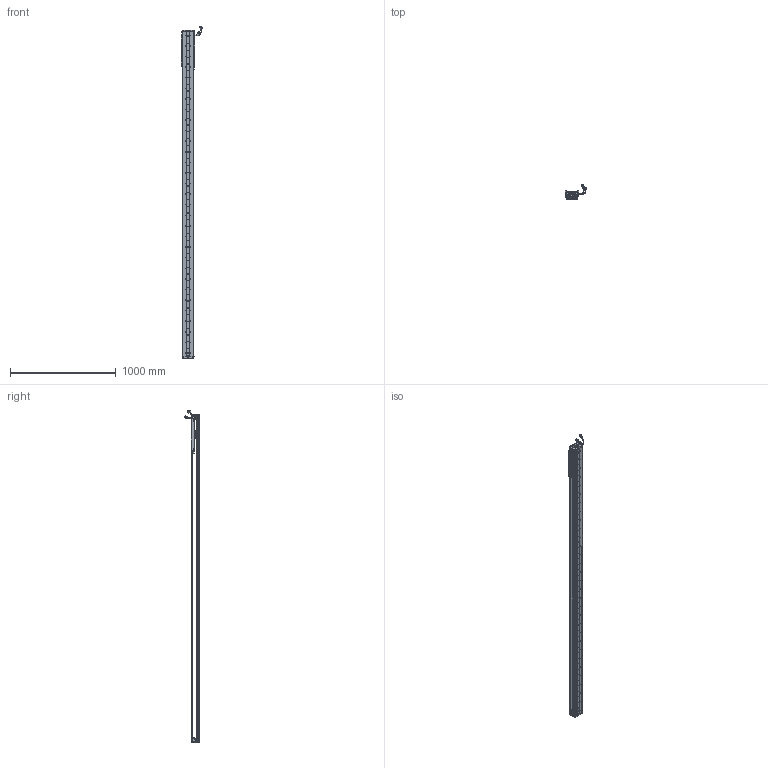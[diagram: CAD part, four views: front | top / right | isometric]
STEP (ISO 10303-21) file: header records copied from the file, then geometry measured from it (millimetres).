
FILE_DESCRIPTION (( 'STEP AP203' ), '1' );
FILE_NAME ('Z4-RY100D-1-L500-B-K.SLDASM_2700.step', '2021-05-17T03:04:56', ( '盈信电脑' ), ( '东莞市道滘镇水果街19号' ), 'SwSTEP 2.0', 'SolidWorks 2016', '' );
FILE_SCHEMA (( 'CONFIG_CONTROL_DESIGN' ));
Length unit declared in the file: millimetre
Products named in the file (36): 100-Z-臏賑輸盄裔(21遴); SCALE; PBU_SHEET; SEAL; Z4-RY100-L500詩湍90mm遵_2700; Z-100詩湍傷裔啣; Z4-RY100D-500-倰第菁釱_2700; 080黍杅芛假蚾釱21遴; PSLH080_PSLF2; SCREW-M1.6-3; SCREW-M1.6; SCALE-Part-2; COVER; SHIELDPLATE; LABEL; COVER-Part-1; Z-RY100D覜茼んえ; SCREW-M1.7-1; HARNESS-Part-2; SCALE-Part-1; SCREW-M1.6-1; HARNESS; Z-RY100D詩湍奻揤裔; 140蚥薯蝶輸; 140雄赽晤鎢ん堤盄; HOLDER0; Z4-RY100铝滑块（21款）; SCREW-M1.7; HARNESS-Part-1; LABEL-Part-1; 榋妏寠巭燃_暯_M2_2; SEAL-Part-1; SCREW-M1.6-2; Z4-RY100D-1-L500-B-K.SLDASM_2700; 覜茼ん672; Z-RY100D詩湍狟揤裔
Assembly tree (43 placements, depth 4):
  Z4-RY100D-1-L500-B-K.SLDASM_2700
    Z4-RY100D-500-倰第菁釱_2700
    Z4-RY100铝滑块（21款）
    PSLH080_PSLF2
      SCALE
        SCALE-Part-1
        SCALE-Part-2
      HARNESS
        HARNESS-Part-1
        HARNESS-Part-2
      LABEL
        LABEL-Part-1
      COVER
        COVER-Part-1
      SEAL
        SEAL-Part-1
      榋妏寠巭燃_暯_M2_2
      SHIELDPLATE
      SCREW-M1.7
      SCREW-M1.7-1
      PBU_SHEET
      SCREW-M1.6
      SCREW-M1.6-1
      SCREW-M1.6-2
      SCREW-M1.6-3
      HOLDER0
    080黍杅芛假蚾釱21遴
    Z-100詩湍傷裔啣  x2
    140蚥薯蝶輸  x2
    覜茼ん672  x3
    Z-RY100D覜茼んえ  x3
    100-Z-臏賑輸盄裔(21遴)
    140雄赽晤鎢ん堤盄
    Z4-RY100-L500詩湍90mm遵_2700
    Z-RY100D詩湍狟揤裔  x2
    Z-RY100D詩湍奻揤裔  x2
Bounding box: 205.79 x 136.11 x 3135.43 mm (x, y, z)
Volume: 5742707.5 mm3; surface area: 2253258.9 mm2
Topology: 38 solids, 38 shells, 3142 faces, 8653 edges, 5536 vertices
Faces by surface type: cylinder 1590, plane 1204, cone 226, torus 69, bspline 53
Entity records: 92349 total; most frequent: CARTESIAN_POINT 19302, DIRECTION 14961, ORIENTED_EDGE 14186, EDGE_CURVE 7093, AXIS2_PLACEMENT_3D 5655, VERTEX_POINT 4604, LINE 3651, VECTOR 3651
